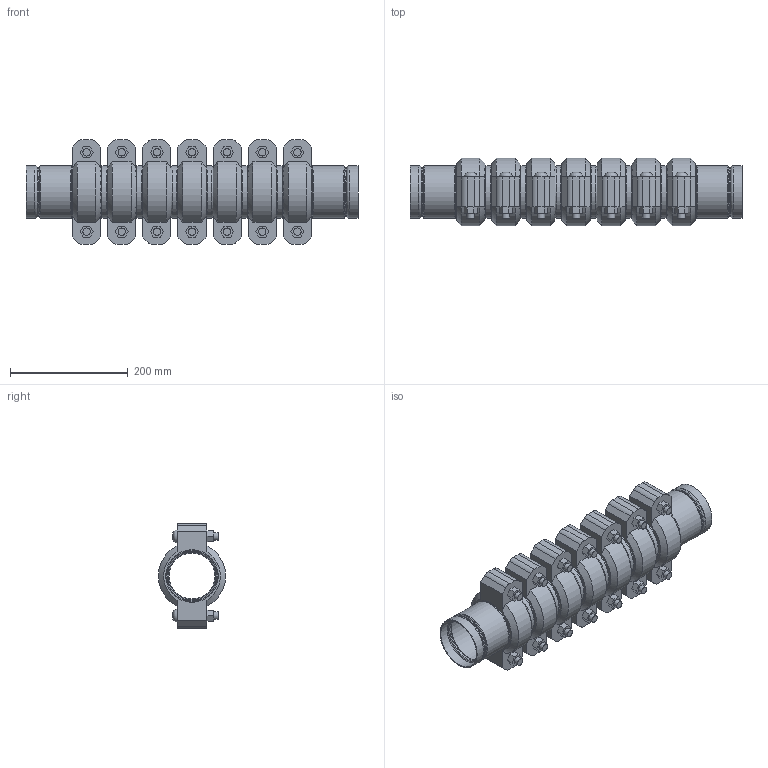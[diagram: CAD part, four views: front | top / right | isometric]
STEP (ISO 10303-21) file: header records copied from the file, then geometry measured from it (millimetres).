
FILE_DESCRIPTION(/* description */ ('VIC STRENGTHIN 100 EXPANSION JOINT 7 COUPLINGS NEUTRAL STYLE E155 (ST1)','CAx-IF Rec.Pracs.---Representation and Presentation of Product Manufacturing Information (PMI)---4.0---2014-10-13'),/* implementation_level */ '2;1');
FILE_NAME(/* name */ 'C:\Users\Vjadhav\AppData\Roaming\Autodesk\ApplicationPlugins\Victaulic.Temp\A857\Victaulic_SS-StrengThin 100_Expansion Joint_Neutral_7 Couplings_Style E155 (ST1)_7 Coup_Neut_3 (80).stp',/* time_stamp */ '2021-07-20T17:49:48+05:00',/* author */ ('kkamble'),/* organization */ ('Victaulic'),/* preprocessor_version */ 'ST-DEVELOPER v17.2',/* originating_system */ 'Autodesk Inventor 2019',/* authorisation */ '');
FILE_SCHEMA (('AP242_MANAGED_MODEL_BASED_3D_ENGINEERING_MIM_LF { 1 0 10303 442 1 1 4 }'));
Length unit declared in the file: inch
Products named in the file (4): E155-03.0; E494G-03.0; Nipple-03.0; 075-03.0
Assembly tree (15 placements, depth 2):
  E155-03.0
    E494G-03.0  x2
    Nipple-03.0  x6
    075-03.0  x7
Bounding box: 562.86 x 113.88 x 177.8 mm (x, y, z)
Volume: 2860447.6 mm3; surface area: 753743.7 mm2
Topology: 15 solids, 29 shells, 539 faces, 1333 edges, 940 vertices
Faces by surface type: plane 300, cylinder 161, torus 32, cone 32, bspline 14
Full cylindrical faces by diameter (mm): 12.7 x28, 14.605 x14, 77.927 x6, 79.985 x2, 81.737 x2, 82.55 x7, 83.185 x2, 84.938 x14, 85.7 x6, 88.9 x38
Entity records: 3782 total; most frequent: DIRECTION 673, CARTESIAN_POINT 661, ORIENTED_EDGE 548, AXIS2_PLACEMENT_3D 287, EDGE_CURVE 274, VERTEX_POINT 197, CIRCLE 167, EDGE_LOOP 129
